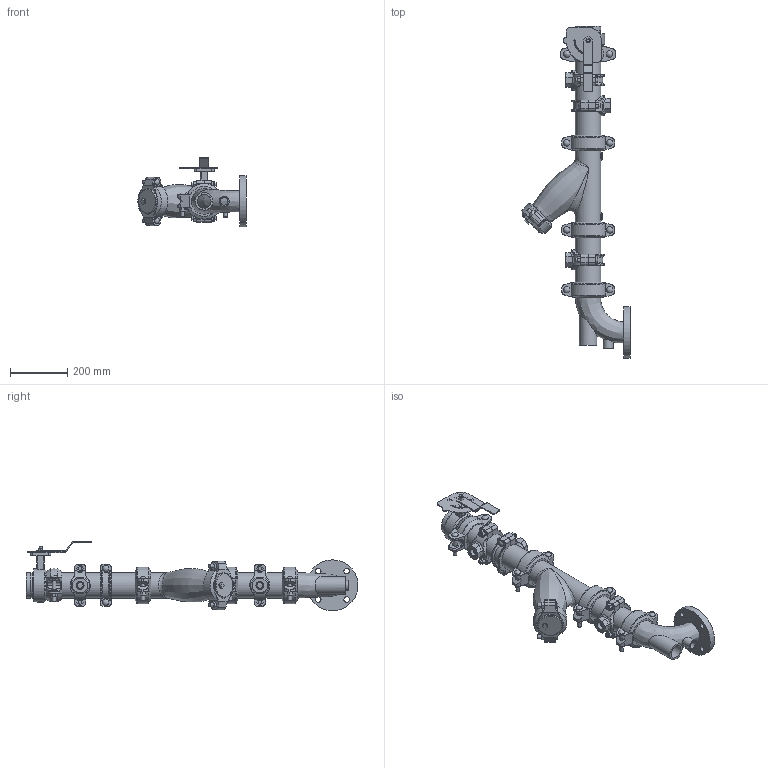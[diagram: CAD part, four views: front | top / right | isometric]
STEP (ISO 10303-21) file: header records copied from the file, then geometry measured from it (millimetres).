
FILE_DESCRIPTION(/* description */ (''),/* implementation_level */ '2;1');
FILE_NAME(/* name */ 'P:\Inventor CPS India\2021\To be checked\Pump Drop GDP\STEP\Victaulic_IPS_Horizontal SVI_CL 150_Series 382\Victaulic_IPS_Horizontal SVI_CL 150_Series 382 (OGSxFLG)_03.0x02.5 (80x65).stp',/* time_stamp */ '2022-04-07T11:57:18+05:00',/* author */ ('Vjadhav'),/* organization */ (''),/* preprocessor_version */ 'ST-DEVELOPER v16.1',/* originating_system */ 'Autodesk Inventor 2016',/* authorisation */ '');
FILE_SCHEMA (('AUTOMOTIVE_DESIGN { 1 0 10303 214 3 1 1 }'));
Length unit declared in the file: inch
Products named in the file (14): pipe-01; 107N-04; 732-04; 07-07; Cap_732-04; Victaulic-IPS-Vic-Strainer Wye Type Series 732-04; 177N-04; pipe-03; 920N LOWER HSG-05; 920NT-HSG-17; 920NT-17; 761-04; R100F-02; Victaulic_IPS_Horizontal SVI_CL 150_Series 382 (OGSxFLG)
Assembly tree (17 placements, depth 3):
  Victaulic_IPS_Horizontal SVI_CL 150_Series 382 (OGSxFLG)
    pipe-01
    107N-04
    Victaulic-IPS-Vic-Strainer Wye Type Series 732-04
      732-04
      07-07
      Cap_732-04
    177N-04  x3
    pipe-03
    920NT-17  x3
      920N LOWER HSG-05
      920NT-HSG-17
    761-04
    R100F-02
Bounding box: 376.53 x 1155.7 x 243.08 mm (x, y, z)
Volume: 5529014.4 mm3; surface area: 1409126.3 mm2
Topology: 18 solids, 21 shells, 1011 faces, 2544 edges, 1665 vertices
Faces by surface type: plane 543, cylinder 347, torus 44, bspline 40, cone 21, sphere 16
Full cylindrical faces by diameter (mm): 4.826 x10, 8.636 x4, 10.922 x2, 12.7 x32, 19.05 x5, 20.93 x3, 21.982 x6, 22.225 x10, 22.86 x1, 25.4 x2, 26.67 x1, 26.924 x3, 34.29 x1, 48.26 x1, 55.118 x1, 60.96 x1, 62.713 x1, 70.104 x1, 74.524 x1, 74.676 x1, 76.2 x4, 77.927 x4, 82.55 x1, 84.938 x11, 88.9 x26, 114.3 x1, 177.8 x1
Entity records: 22286 total; most frequent: CARTESIAN_POINT 7251, DIRECTION 2981, ORIENTED_EDGE 2732, EDGE_CURVE 1360, AXIS2_PLACEMENT_3D 1134, VERTEX_POINT 946, EDGE_LOOP 852, LINE 713
